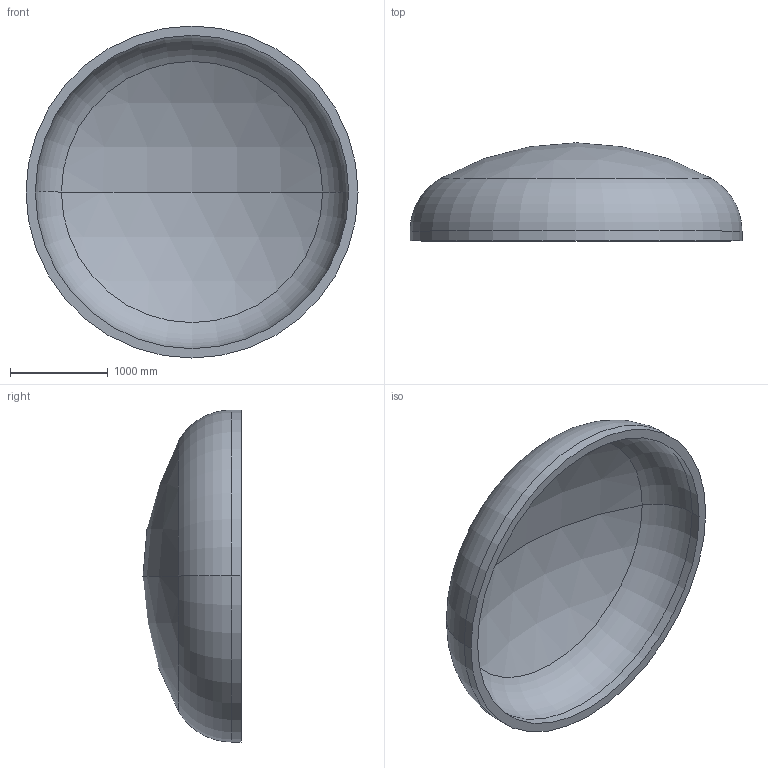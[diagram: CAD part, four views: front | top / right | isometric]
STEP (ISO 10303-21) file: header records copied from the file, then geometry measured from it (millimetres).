
FILE_DESCRIPTION (( 'STEP AP203' ), '1' );
FILE_NAME ('DIN 28013 Korbbogenform_-_Boden DIN 28013 - 3400 x 100 - I - s=96.step', '2016-07-01T19:51:09', ( '' ), ( '' ), 'SwSTEP 2.0', 'SolidWorks 2013', '' );
FILE_SCHEMA (( 'CONFIG_CONTROL_DESIGN' ));
Length unit declared in the file: millimetre
Products named in the file (1): DIN 28013 Korbbogenform_-_Boden DIN 28013 - 3400 x 100 - I - s=96
Bounding box: 3400 x 1004.51 x 3400 mm (x, y, z)
Volume: 1263649989.6 mm3; surface area: 27341797.5 mm2
Topology: 1 solids, 1 shells, 13 faces, 24 edges, 14 vertices
Faces by surface type: torus 4, cylinder 4, sphere 4, plane 1
Entity records: 407 total; most frequent: DIRECTION 72, CARTESIAN_POINT 52, ORIENTED_EDGE 48, AXIS2_PLACEMENT_3D 34, EDGE_CURVE 24, CIRCLE 20, VERTEX_POINT 14, EDGE_LOOP 14
